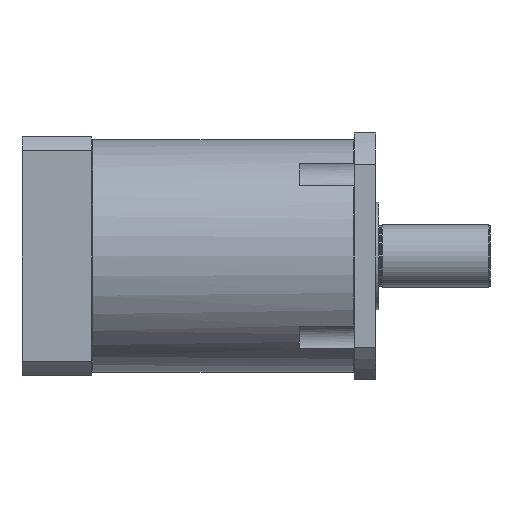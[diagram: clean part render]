
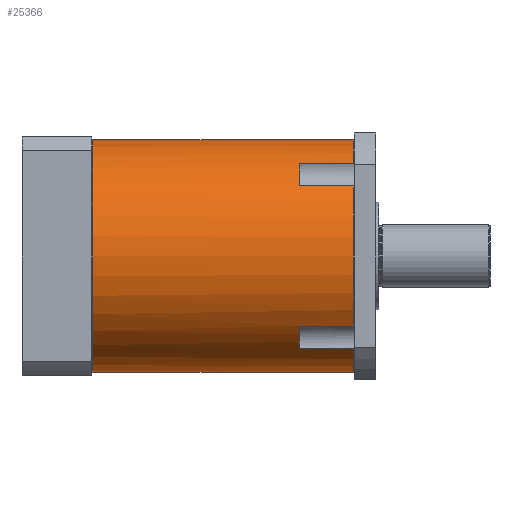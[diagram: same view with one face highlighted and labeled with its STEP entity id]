
A CAD part, front view. The second image highlights one B-rep face of the part: STEP entity #25366.
In plain terms, the highlighted cylindrical face has radius 60 mm (diameter 120 mm), a partial arc.
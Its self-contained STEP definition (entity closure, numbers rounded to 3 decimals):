
#250 = DIRECTION ( 'NONE',  ( 0., 0., -1. ) ) ;
#785 = VERTEX_POINT ( 'NONE', #29045 ) ;
#836 = LINE ( 'NONE', #31496, #24600 ) ;
#875 = CARTESIAN_POINT ( 'NONE',  ( 107., 0., 0. ) ) ;
#1024 = ORIENTED_EDGE ( 'NONE', *, *, #23074, .T. ) ;
#1987 = LINE ( 'NONE', #12345, #6716 ) ;
#2027 = EDGE_CURVE ( 'NONE', #16595, #22188, #23190, .T. ) ;
#2138 = DIRECTION ( 'NONE',  ( -1., 0., 0. ) ) ;
#2163 = EDGE_LOOP ( 'NONE', ( #21266, #16666, #7089, #4696, #1024, #7729, #8916, #5359, #13553, #33046, #5392, #32144 ) ) ;
#2669 = DIRECTION ( 'NONE',  ( 1., 0., 0. ) ) ;
#3098 = VECTOR ( 'NONE', #2138, 1000. ) ;
#3265 = AXIS2_PLACEMENT_3D ( 'NONE', #4431, #24762, #12240 ) ;
#3402 = CIRCLE ( 'NONE', #13150, 60. ) ;
#4013 = LINE ( 'NONE', #14352, #3098 ) ;
#4431 = CARTESIAN_POINT ( 'NONE',  ( 135., 0., 0. ) ) ;
#4696 = ORIENTED_EDGE ( 'NONE', *, *, #11122, .T. ) ;
#4761 = CARTESIAN_POINT ( 'NONE',  ( 107., -36.137, 47.897 ) ) ;
#5359 = ORIENTED_EDGE ( 'NONE', *, *, #25704, .T. ) ;
#5392 = ORIENTED_EDGE ( 'NONE', *, *, #14278, .T. ) ;
#5482 = CARTESIAN_POINT ( 'NONE',  ( 107., -47.897, -36.137 ) ) ;
#5652 = CIRCLE ( 'NONE', #26187, 60. ) ;
#6008 = CARTESIAN_POINT ( 'NONE',  ( 107., -47.897, 36.137 ) ) ;
#6057 = EDGE_CURVE ( 'NONE', #9633, #19408, #4013, .T. ) ;
#6522 = FACE_OUTER_BOUND ( 'NONE', #2163, .T. ) ;
#6716 = VECTOR ( 'NONE', #32975, 1000. ) ;
#7089 = ORIENTED_EDGE ( 'NONE', *, *, #15963, .T. ) ;
#7729 = ORIENTED_EDGE ( 'NONE', *, *, #29176, .F. ) ;
#8737 = CARTESIAN_POINT ( 'NONE',  ( 0.5, 0., 0. ) ) ;
#8847 = DIRECTION ( 'NONE',  ( 1., 0., 0. ) ) ;
#8890 = CYLINDRICAL_SURFACE ( 'NONE', #18948, 60. ) ;
#8916 = ORIENTED_EDGE ( 'NONE', *, *, #2027, .T. ) ;
#9633 = VERTEX_POINT ( 'NONE', #19448 ) ;
#10079 = CARTESIAN_POINT ( 'NONE',  ( 135., 0., 60. ) ) ;
#10161 = VERTEX_POINT ( 'NONE', #29305 ) ;
#10353 = CIRCLE ( 'NONE', #3265, 60. ) ;
#11122 = EDGE_CURVE ( 'NONE', #15690, #10161, #25981, .T. ) ;
#11201 = DIRECTION ( 'NONE',  ( 1., 0., 0. ) ) ;
#11568 = DIRECTION ( 'NONE',  ( 0., 0., -1. ) ) ;
#11684 = EDGE_CURVE ( 'NONE', #785, #12471, #24386, .T. ) ;
#11764 = DIRECTION ( 'NONE',  ( 1., 0., 0. ) ) ;
#11869 = CIRCLE ( 'NONE', #25401, 60. ) ;
#12240 = DIRECTION ( 'NONE',  ( 0., 0., 1. ) ) ;
#12328 = LINE ( 'NONE', #32275, #13979 ) ;
#12345 = CARTESIAN_POINT ( 'NONE',  ( 121.25, -36.137, 47.897 ) ) ;
#12471 = VERTEX_POINT ( 'NONE', #10079 ) ;
#13150 = AXIS2_PLACEMENT_3D ( 'NONE', #14909, #2669, #15252 ) ;
#13553 = ORIENTED_EDGE ( 'NONE', *, *, #6057, .T. ) ;
#13935 = CIRCLE ( 'NONE', #19344, 60. ) ;
#13979 = VECTOR ( 'NONE', #22673, 1000. ) ;
#14278 = EDGE_CURVE ( 'NONE', #27306, #19581, #1987, .T. ) ;
#14352 = CARTESIAN_POINT ( 'NONE',  ( 121.25, -47.897, 36.137 ) ) ;
#14627 = DIRECTION ( 'NONE',  ( -1., 0., 0. ) ) ;
#14909 = CARTESIAN_POINT ( 'NONE',  ( 107., 0., 0. ) ) ;
#15252 = DIRECTION ( 'NONE',  ( 0., 0., -1. ) ) ;
#15690 = VERTEX_POINT ( 'NONE', #16299 ) ;
#15963 = EDGE_CURVE ( 'NONE', #22937, #15690, #836, .T. ) ;
#16299 = CARTESIAN_POINT ( 'NONE',  ( 135., 0., -60. ) ) ;
#16529 = VERTEX_POINT ( 'NONE', #24801 ) ;
#16595 = VERTEX_POINT ( 'NONE', #5482 ) ;
#16666 = ORIENTED_EDGE ( 'NONE', *, *, #22314, .T. ) ;
#18611 = CARTESIAN_POINT ( 'NONE',  ( 0.5, 0., -60. ) ) ;
#18948 = AXIS2_PLACEMENT_3D ( 'NONE', #32219, #11764, #29369 ) ;
#19344 = AXIS2_PLACEMENT_3D ( 'NONE', #8737, #21118, #250 ) ;
#19408 = VERTEX_POINT ( 'NONE', #6008 ) ;
#19448 = CARTESIAN_POINT ( 'NONE',  ( 135., -47.897, 36.137 ) ) ;
#19502 = AXIS2_PLACEMENT_3D ( 'NONE', #32872, #20035, #30020 ) ;
#19581 = VERTEX_POINT ( 'NONE', #31527 ) ;
#20035 = DIRECTION ( 'NONE',  ( -1., 0., 0. ) ) ;
#20444 = CARTESIAN_POINT ( 'NONE',  ( 135., -47.897, -36.137 ) ) ;
#20487 = EDGE_CURVE ( 'NONE', #27306, #19408, #11869, .T. ) ;
#20799 = DIRECTION ( 'NONE',  ( 1., 0., 0. ) ) ;
#21118 = DIRECTION ( 'NONE',  ( 1., 0., 0. ) ) ;
#21266 = ORIENTED_EDGE ( 'NONE', *, *, #11684, .F. ) ;
#21911 = CARTESIAN_POINT ( 'NONE',  ( 135., 0., 0. ) ) ;
#22188 = VERTEX_POINT ( 'NONE', #20444 ) ;
#22314 = EDGE_CURVE ( 'NONE', #785, #22937, #13935, .T. ) ;
#22673 = DIRECTION ( 'NONE',  ( -1., 0., 0. ) ) ;
#22937 = VERTEX_POINT ( 'NONE', #18611 ) ;
#23074 = EDGE_CURVE ( 'NONE', #10161, #16529, #12328, .T. ) ;
#23190 = LINE ( 'NONE', #30319, #32666 ) ;
#24386 = LINE ( 'NONE', #31657, #24927 ) ;
#24448 = DIRECTION ( 'NONE',  ( 0., 0., 1. ) ) ;
#24600 = VECTOR ( 'NONE', #11201, 1000. ) ;
#24762 = DIRECTION ( 'NONE',  ( -1., 0., 0. ) ) ;
#24801 = CARTESIAN_POINT ( 'NONE',  ( 107., -36.137, -47.897 ) ) ;
#24927 = VECTOR ( 'NONE', #26576, 1000. ) ;
#25366 = ADVANCED_FACE ( 'NONE', ( #6522 ), #8890, .T. ) ;
#25401 = AXIS2_PLACEMENT_3D ( 'NONE', #875, #8847, #11568 ) ;
#25704 = EDGE_CURVE ( 'NONE', #22188, #9633, #10353, .T. ) ;
#25981 = CIRCLE ( 'NONE', #19502, 60. ) ;
#26187 = AXIS2_PLACEMENT_3D ( 'NONE', #21911, #14627, #24448 ) ;
#26576 = DIRECTION ( 'NONE',  ( 1., 0., 0. ) ) ;
#27306 = VERTEX_POINT ( 'NONE', #4761 ) ;
#29045 = CARTESIAN_POINT ( 'NONE',  ( 0.5, 0., 60. ) ) ;
#29176 = EDGE_CURVE ( 'NONE', #16595, #16529, #3402, .T. ) ;
#29305 = CARTESIAN_POINT ( 'NONE',  ( 135., -36.137, -47.897 ) ) ;
#29369 = DIRECTION ( 'NONE',  ( 0., 0., -1. ) ) ;
#30020 = DIRECTION ( 'NONE',  ( 0., 0., 1. ) ) ;
#30319 = CARTESIAN_POINT ( 'NONE',  ( 121.25, -47.897, -36.137 ) ) ;
#31467 = EDGE_CURVE ( 'NONE', #19581, #12471, #5652, .T. ) ;
#31496 = CARTESIAN_POINT ( 'NONE',  ( 52.368, 0., -60. ) ) ;
#31527 = CARTESIAN_POINT ( 'NONE',  ( 135., -36.137, 47.897 ) ) ;
#31657 = CARTESIAN_POINT ( 'NONE',  ( 52.368, 0., 60. ) ) ;
#32144 = ORIENTED_EDGE ( 'NONE', *, *, #31467, .T. ) ;
#32219 = CARTESIAN_POINT ( 'NONE',  ( 52.368, 0., 0. ) ) ;
#32275 = CARTESIAN_POINT ( 'NONE',  ( 121.25, -36.137, -47.897 ) ) ;
#32666 = VECTOR ( 'NONE', #20799, 1000. ) ;
#32872 = CARTESIAN_POINT ( 'NONE',  ( 135., 0., 0. ) ) ;
#32975 = DIRECTION ( 'NONE',  ( 1., 0., 0. ) ) ;
#33046 = ORIENTED_EDGE ( 'NONE', *, *, #20487, .F. ) ;
